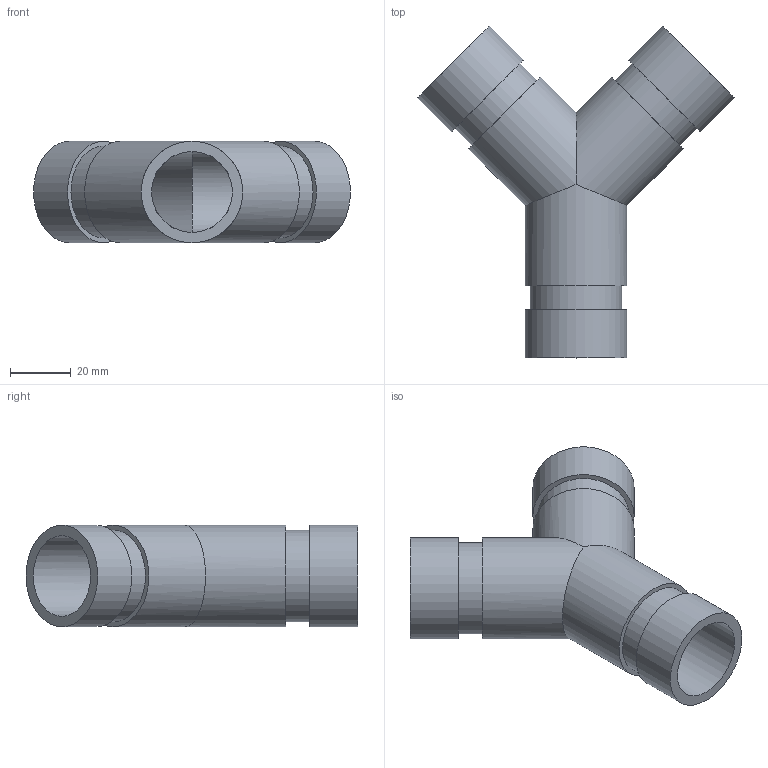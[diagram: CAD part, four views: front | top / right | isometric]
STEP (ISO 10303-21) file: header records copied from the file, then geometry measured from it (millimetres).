
FILE_DESCRIPTION(/* description */ ('This is default description.','CAx-IF Rec.Pracs.---Representation and Presentation of Product Manufacturing Information (PMI)---4.0---2014-10-13'),/* implementation_level */ '2;1');
FILE_NAME(/* name */ 'C:\Users\kkamble\AppData\Roaming\Autodesk\ApplicationPlugins\Back Up\Victaulic_IPS-Tee- Wye_ No 33 SWS (OGS)\Victaulic_IPS-Tee- Wye_ No 33 SWS (OGS)_1.stp',/* time_stamp */ '2020-09-16T22:07:42+06:00',/* author */ ('cgray'),/* organization */ ('Victaulic'),/* preprocessor_version */ 'ST-DEVELOPER v17.2',/* originating_system */ 'Autodesk Inventor 2019',/* authorisation */ '');
FILE_SCHEMA (('AP242_MANAGED_MODEL_BASED_3D_ENGINEERING_MIM_LF { 1 0 10303 442 1 1 4 }'));
Length unit declared in the file: inch
Products named in the file (1): 33 SWS-01.0
Bounding box: 104.44 x 109.37 x 33.4 mm (x, y, z)
Volume: 45253.8 mm3; surface area: 30674.2 mm2
Topology: 1 solids, 1 shells, 21 faces, 48 edges, 34 vertices
Faces by surface type: cylinder 12, plane 9
Full cylindrical faces by diameter (mm): 26.645 x3, 30.226 x3, 33.401 x6
Entity records: 787 total; most frequent: DIRECTION 154, CARTESIAN_POINT 121, ORIENTED_EDGE 96, AXIS2_PLACEMENT_3D 71, EDGE_CURVE 48, VERTEX_POINT 34, EDGE_LOOP 30, CIRCLE 26
